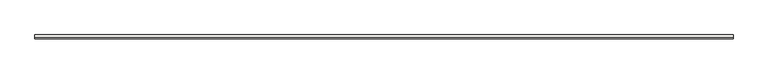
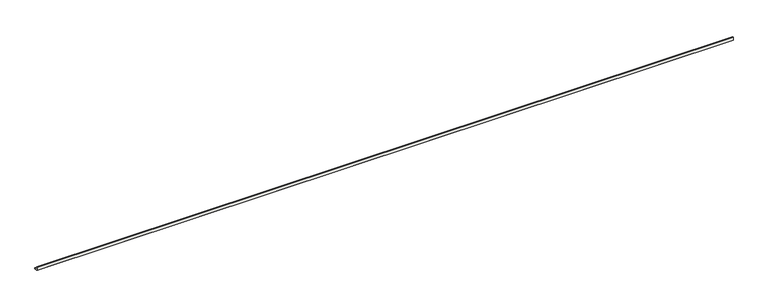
"""IFC4 building model written with IfcOpenShell, lengths in millimetres: slab geometry, ROSA GRES_188 : Pieza 188_Tao_Beige_Liso."""

import ifcopenshell
import ifcopenshell.guid

model = None  # the IFC model being written
_history = None  # IfcOwnerHistory: only IFC2X3 demands one
_inside = {}  # id of a spatial element -> (the spatial element, [elements in it])
_under = {}  # id of a project, library or spatial element -> (it, [spatial elements below it])
_declared = {}  # id of a project -> (the project, [libraries it declares])
_typed = {}  # id of a type object -> (the type object, [elements of that type])
_made_of = {}  # id of a material, layer set ... -> (it, [elements and type objects made of it])


def new_model(schema):
    """Start an empty IFC model of exactly this schema.

    Asked for "IFC4X3", IfcOpenShell would pick the latest addendum, in which some entities
    have other attributes; the version numbers below select the first issue.
    IFC2X3 requires an IfcOwnerHistory on every rooted entity: one is made here for all.
    """
    global model, _history
    if schema == "IFC4X3":
        model = ifcopenshell.file(schema_version=(4, 3, 0, 0))
    else:
        model = ifcopenshell.file(schema=schema)
    _inside.clear()
    _under.clear()
    _declared.clear()
    _typed.clear()
    _made_of.clear()
    _history = None
    if model.schema == "IFC2X3":
        org = make("IfcOrganization", Name="unknown")
        user = make(
            "IfcPersonAndOrganization",
            ThePerson=make("IfcPerson", FamilyName="unknown"),
            TheOrganization=org,
        )
        app = make(
            "IfcApplication",
            ApplicationDeveloper=org,
            Version="unknown",
            ApplicationFullName="unknown",
            ApplicationIdentifier="unknown",
        )
        _history = make(
            "IfcOwnerHistory",
            OwningUser=user,
            OwningApplication=app,
            ChangeAction="ADDED",
            CreationDate=0,
        )
    return model


def make(cls, **values):
    """One entity of the class cls with the attributes given. An attribute that is None is left unset."""
    return model.create_entity(
        cls, **{name: value for name, value in values.items() if value is not None}
    )


def rooted(cls, **values):
    """An entity with a GlobalId (a new one), such as an element, a storey or a relation."""
    return make(cls, GlobalId=ifcopenshell.guid.new(), OwnerHistory=_history, **values)


def si_unit(unit_type, name, prefix=None):
    """IfcSIUnit, for example si_unit("LENGTHUNIT", "METRE", prefix="MILLI")."""
    return make("IfcSIUnit", UnitType=unit_type, Prefix=prefix, Name=name)


def assignment(units):
    """IfcUnitAssignment: the units of a project."""
    return None if units is None else make("IfcUnitAssignment", Units=units)


def point(xyz):
    """IfcCartesianPoint."""
    return None if xyz is None else make("IfcCartesianPoint", Coordinates=xyz)


def direction(xyz):
    """IfcDirection."""
    return None if xyz is None else make("IfcDirection", DirectionRatios=xyz)


def frame(location, z_axis=None, x_axis=None):
    """IfcAxis2Placement3D, a coordinate frame: its origin and axes. An axis left out is left unset."""
    return make(
        "IfcAxis2Placement3D",
        Location=point(location),
        Axis=direction(z_axis),
        RefDirection=direction(x_axis),
    )


def frame_2d(location, x_axis=None):
    """IfcAxis2Placement2D, a coordinate frame in the plane: its origin and x axis."""
    return make(
        "IfcAxis2Placement2D", Location=point(location), RefDirection=direction(x_axis)
    )


def origin():
    """The frame at (0, 0, 0) with its axes left unset."""
    return frame((0.0, 0.0, 0.0))


def place(relative_to, where):
    """IfcLocalPlacement: puts the frame where relative to a parent placement (None: the world)."""
    return make(
        "IfcLocalPlacement", PlacementRelTo=relative_to, RelativePlacement=where
    )


def context(
    kind, dimensions, precision=None, world=None, true_north=None, identifier=None
):
    """IfcGeometricRepresentationContext, for example the 3D "Model" context."""
    return make(
        "IfcGeometricRepresentationContext",
        ContextIdentifier=identifier,
        ContextType=kind,
        CoordinateSpaceDimension=dimensions,
        Precision=precision,
        WorldCoordinateSystem=world,
        TrueNorth=true_north,
    )


def project(units=None, contexts=None):
    """IfcProject with its units and contexts."""
    return rooted(
        "IfcProject",
        Name="project",
        RepresentationContexts=contexts,
        UnitsInContext=assignment(units),
    )


def spatial(cls, under=None, at=None, **own):
    """A site, building, storey or space (cls), placed at a placement, below another one or the project."""
    s = rooted(cls, ObjectPlacement=at, **own)
    if under is not None:
        _under.setdefault(under.id(), (under, []))[1].append(s)
    return s


def polyline(points):
    """IfcPolyline through the points."""
    return make("IfcPolyline", Points=[point(p) for p in points])


def circle_curve(where, radius):
    """IfcCircle in the frame where."""
    return make("IfcCircle", Position=where, Radius=radius)


def trimmed(basis, trim1, trim2, sense, master):
    """IfcTrimmedCurve: the piece of a basis curve between two trims."""
    return make(
        "IfcTrimmedCurve",
        BasisCurve=basis,
        Trim1=trim1,
        Trim2=trim2,
        SenseAgreement=sense,
        MasterRepresentation=master,
    )


def segment(curve, same_sense, transition):
    """IfcCompositeCurveSegment."""
    return make(
        "IfcCompositeCurveSegment",
        Transition=transition,
        SameSense=same_sense,
        ParentCurve=curve,
    )


def composite_curve(segments, self_intersect=None):
    """IfcCompositeCurve: segments joined end to end."""
    return make("IfcCompositeCurve", Segments=segments, SelfIntersect=self_intersect)


def outline(outer, holes=None, kind="AREA"):
    """IfcArbitraryClosedProfileDef: a profile drawn as a closed curve; with holes, ...WithVoids."""
    if holes is None:
        return make("IfcArbitraryClosedProfileDef", ProfileType=kind, OuterCurve=outer)
    return make(
        "IfcArbitraryProfileDefWithVoids",
        ProfileType=kind,
        OuterCurve=outer,
        InnerCurves=holes,
    )


def extrude(swept, where, along, depth):
    """IfcExtrudedAreaSolid: the profile swept, set in the frame where, extruded along a direction by depth."""
    return make(
        "IfcExtrudedAreaSolid",
        SweptArea=swept,
        Position=where,
        ExtrudedDirection=direction(along),
        Depth=depth,
    )


def shape(context_of_items, identifier, shape_type, items):
    """IfcShapeRepresentation: the items that make up one representation, for example the "Body"."""
    return make(
        "IfcShapeRepresentation",
        ContextOfItems=context_of_items,
        RepresentationIdentifier=identifier,
        RepresentationType=shape_type,
        Items=items,
    )


def source(mapping_origin, context_of_items, identifier, shape_type, items):
    """IfcRepresentationMap: a shape defined once, which mapped items show again and again."""
    return make(
        "IfcRepresentationMap",
        MappingOrigin=mapping_origin,
        MappedRepresentation=shape(context_of_items, identifier, shape_type, items),
    )


def transform(
    local_origin,
    x_axis=None,
    y_axis=None,
    z_axis=None,
    scale=None,
    scale2=None,
    scale3=None,
    uniform=True,
):
    """IfcCartesianTransformationOperator3D, or its non-uniform kind. x_axis, y_axis, z_axis: its Axis1, 2, 3."""
    if uniform:
        return make(
            "IfcCartesianTransformationOperator3D",
            Axis1=direction(x_axis),
            Axis2=direction(y_axis),
            LocalOrigin=point(local_origin),
            Scale=scale,
            Axis3=direction(z_axis),
        )
    return make(
        "IfcCartesianTransformationOperator3DnonUniform",
        Axis1=direction(x_axis),
        Axis2=direction(y_axis),
        LocalOrigin=point(local_origin),
        Scale=scale,
        Axis3=direction(z_axis),
        Scale2=scale2,
        Scale3=scale3,
    )


def mapped(mapping_source, mapping_target):
    """IfcMappedItem: shows the shape of a source again, moved by a transform."""
    return make(
        "IfcMappedItem", MappingSource=mapping_source, MappingTarget=mapping_target
    )


def made_of(thing, what):
    """Note that an element or type object is made of a material, layer set ...; save() writes the relation."""
    if what is not None:
        _made_of.setdefault(what.id(), (what, []))[1].append(thing)
    return thing


def element(
    cls,
    number,
    at=None,
    inside=None,
    cuts=None,
    type_object=None,
    material=None,
    context=None,
    identifier="Body",
    shape_type=None,
    held_by="IfcProductDefinitionShape",
    body=None,
    shapes=None,
    **own,
):
    """One element of the class cls, such as IfcWall. Its Tag is "e" and its number.

    at: its placement. inside: the storey or other place that contains it. cuts: it is an
    opening in that element (IfcRelVoidsElement). A single representation is given by context,
    identifier, shape_type and body (its items); several are given by shapes. held_by: the class
    of the entity that holds the representations. save() writes the other relations.
    """
    e = rooted(cls, Tag="e%d" % number, ObjectPlacement=at, **own)
    if body is not None:
        shapes = [shape(context, identifier, shape_type, body)]
    if shapes is not None:
        e.Representation = make(held_by, Representations=shapes)
    if inside is not None:
        _inside.setdefault(inside.id(), (inside, []))[1].append(e)
    if cuts is not None:
        rooted(
            "IfcRelVoidsElement", RelatingBuildingElement=cuts, RelatedOpeningElement=e
        )
    if type_object is not None:
        _typed.setdefault(type_object.id(), (type_object, []))[1].append(e)
    return made_of(e, material)


def aggregate(whole, parts):
    """IfcRelAggregates: a whole, such as a stair, and the parts it consists of."""
    return rooted("IfcRelAggregates", RelatingObject=whole, RelatedObjects=parts)


def save(model, path):
    """Write the relations noted so far, then the file.

    IfcRelAggregates (storeys below a building ...), IfcRelContainedInSpatialStructure (elements
    in a storey), IfcRelDefinesByType, IfcRelAssociatesMaterial and IfcRelDeclares: one each for
    every whole, place, type object, material and project.
    """
    for whole, parts in _under.values():
        aggregate(whole, parts)
    for where, things in _inside.values():
        rooted(
            "IfcRelContainedInSpatialStructure",
            RelatedElements=things,
            RelatingStructure=where,
        )
    for kind, things in _typed.values():
        rooted("IfcRelDefinesByType", RelatedObjects=things, RelatingType=kind)
    for what, things in _made_of.values():
        rooted("IfcRelAssociatesMaterial", RelatedObjects=things, RelatingMaterial=what)
    for by, libraries in _declared.values():
        rooted("IfcRelDeclares", RelatingContext=by, RelatedDefinitions=libraries)
    model.write(path)


def slab_4bab5f5c(model_context):
    return source(origin(), model_context, "Body", "SweptSolid", [
        extrude(outline(composite_curve([segment(polyline([(0.0, 8.7114978), (0.0, 40.0), (9.9734114, 40.0)]), True, "CONTINUOUS"), segment(trimmed(circle_curve(frame_2d((39.9955547, 39.9955547)), 30.0221435), [point((9.9734114, 40.0))], [point((40.0, 9.9734114))], True, "CARTESIAN"), True, "CONTINUOUS"), segment(polyline([(40.0, 9.9734114), (40.0, 0.0), (8.7114978, 0.0), (0.0, 8.7114978)]), True, "CONTINUOUS")], self_intersect=False)), frame((0.0, 0.0, 0.0), z_axis=(1.0, 0.0, 0.0), x_axis=(0.0, 1.0, 0.0)), (0.0, 0.0, 1.0), 6991.0),
    ])


if __name__ == "__main__":
    model = new_model("IFC4")
    model_context = context("Model", 3, world=origin())
    ifc_project = project(units=[si_unit("LENGTHUNIT", "METRE", prefix="MILLI")], contexts=[model_context])
    site = spatial("IfcSite", under=ifc_project)
    building = spatial("IfcBuilding", under=site)
    placement = place(None, origin())
    slab_shape = slab_4bab5f5c(model_context)
    element("IfcSlab", 1, ObjectType="ROSA GRES_188 : Pieza 188_Tao_Beige_Liso", at=placement, inside=building, context=model_context, shape_type="MappedRepresentation", body=[
        mapped(slab_shape, transform((0.0, 0.0, 0.0), x_axis=(1.0, 0.0, 0.0), y_axis=(0.0, 1.0, 0.0), z_axis=(0.0, 0.0, 1.0))),
    ])
    save(model, "model.ifc")
